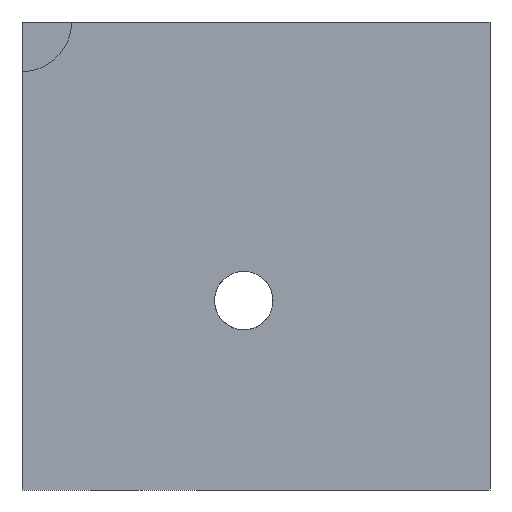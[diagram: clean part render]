
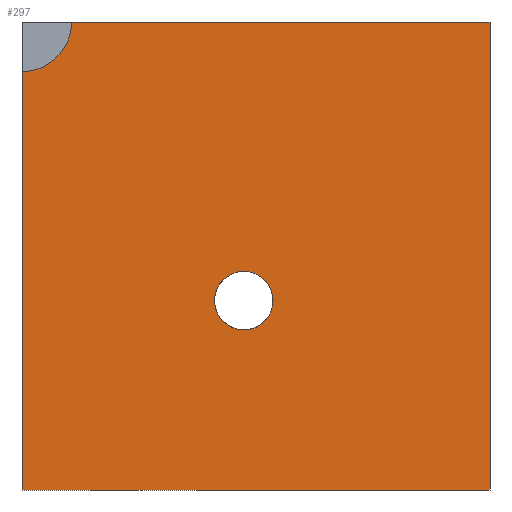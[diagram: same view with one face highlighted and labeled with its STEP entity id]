
A CAD part, front view. The second image highlights one B-rep face of the part: STEP entity #297.
In plain terms, the highlighted planar face has unit normal (0, -1, 0).
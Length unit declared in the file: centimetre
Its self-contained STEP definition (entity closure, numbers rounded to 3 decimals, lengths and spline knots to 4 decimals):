
#13 = CARTESIAN_POINT ( 'NONE',  ( 1000., 0., 1000. ) ) ;
#34 = VERTEX_POINT ( 'NONE', #154 ) ;
#36 = DIRECTION ( 'NONE',  ( 0., 0., -1. ) ) ;
#42 = ORIENTED_EDGE ( 'NONE', *, *, #749, .F. ) ;
#63 = CARTESIAN_POINT ( 'NONE',  ( 473.9316, 0., 342.1343 ) ) ;
#64 = EDGE_CURVE ( 'NONE', #602, #262, #188, .T. ) ;
#70 = EDGE_CURVE ( 'NONE', #262, #602, #369, .T. ) ;
#81 = AXIS2_PLACEMENT_3D ( 'NONE', #845, #1101, #329 ) ;
#101 = CARTESIAN_POINT ( 'NONE',  ( 0., 0., 893.9212 ) ) ;
#132 = CARTESIAN_POINT ( 'NONE',  ( 473.9316, 0., 467.0829 ) ) ;
#146 = DIRECTION ( 'NONE',  ( 0., -1., 0. ) ) ;
#154 = CARTESIAN_POINT ( 'NONE',  ( 1000., 0., 1000. ) ) ;
#159 = CARTESIAN_POINT ( 'NONE',  ( 473.9316, 0., 404.6086 ) ) ;
#168 = EDGE_LOOP ( 'NONE', ( #729, #345 ) ) ;
#169 = AXIS2_PLACEMENT_3D ( 'NONE', #159, #684, #1016 ) ;
#170 = VECTOR ( 'NONE', #976, 100. ) ;
#188 = CIRCLE ( 'NONE', #81, 62.4743 ) ;
#252 = CARTESIAN_POINT ( 'NONE',  ( 0., 0., 1000. ) ) ;
#262 = VERTEX_POINT ( 'NONE', #132 ) ;
#297 = ADVANCED_FACE ( 'NONE', ( #973, #307 ), #805, .F. ) ;
#307 = FACE_OUTER_BOUND ( 'NONE', #909, .T. ) ;
#329 = DIRECTION ( 'NONE',  ( 0., 0., -1. ) ) ;
#345 = ORIENTED_EDGE ( 'NONE', *, *, #70, .F. ) ;
#350 = CARTESIAN_POINT ( 'NONE',  ( 0., 0., 0. ) ) ;
#366 = EDGE_CURVE ( 'NONE', #960, #1076, #451, .T. ) ;
#369 = CIRCLE ( 'NONE', #169, 62.4743 ) ;
#427 = VECTOR ( 'NONE', #765, 100. ) ;
#451 = LINE ( 'NONE', #718, #637 ) ;
#484 = VERTEX_POINT ( 'NONE', #101 ) ;
#494 = EDGE_CURVE ( 'NONE', #34, #1076, #633, .T. ) ;
#499 = EDGE_CURVE ( 'NONE', #484, #960, #719, .T. ) ;
#502 = DIRECTION ( 'NONE',  ( 0., 0., -1. ) ) ;
#563 = DIRECTION ( 'NONE',  ( 0., 0., 1. ) ) ;
#602 = VERTEX_POINT ( 'NONE', #63 ) ;
#633 = LINE ( 'NONE', #13, #170 ) ;
#637 = VECTOR ( 'NONE', #780, 100. ) ;
#684 = DIRECTION ( 'NONE',  ( 0., -1., 0. ) ) ;
#686 = ORIENTED_EDGE ( 'NONE', *, *, #494, .F. ) ;
#689 = LINE ( 'NONE', #252, #427 ) ;
#701 = ORIENTED_EDGE ( 'NONE', *, *, #499, .T. ) ;
#718 = CARTESIAN_POINT ( 'NONE',  ( 0., 0., 0. ) ) ;
#719 = LINE ( 'NONE', #964, #804 ) ;
#729 = ORIENTED_EDGE ( 'NONE', *, *, #64, .F. ) ;
#749 = EDGE_CURVE ( 'NONE', #484, #873, #902, .T. ) ;
#765 = DIRECTION ( 'NONE',  ( 1., 0., 0. ) ) ;
#780 = DIRECTION ( 'NONE',  ( 1., 0., 0. ) ) ;
#804 = VECTOR ( 'NONE', #36, 100. ) ;
#805 = PLANE ( 'NONE',  #915 ) ;
#829 = CARTESIAN_POINT ( 'NONE',  ( 1000., 0., 0. ) ) ;
#845 = CARTESIAN_POINT ( 'NONE',  ( 473.9316, 0., 404.6086 ) ) ;
#871 = CARTESIAN_POINT ( 'NONE',  ( 106.0788, 0., 1000. ) ) ;
#873 = VERTEX_POINT ( 'NONE', #871 ) ;
#897 = ORIENTED_EDGE ( 'NONE', *, *, #930, .F. ) ;
#900 = ORIENTED_EDGE ( 'NONE', *, *, #366, .T. ) ;
#902 = CIRCLE ( 'NONE', #1115, 106.0788 ) ;
#909 = EDGE_LOOP ( 'NONE', ( #897, #42, #701, #900, #686 ) ) ;
#915 = AXIS2_PLACEMENT_3D ( 'NONE', #1069, #1081, #563 ) ;
#924 = CARTESIAN_POINT ( 'NONE',  ( 0., 0., 1000. ) ) ;
#930 = EDGE_CURVE ( 'NONE', #873, #34, #689, .T. ) ;
#960 = VERTEX_POINT ( 'NONE', #350 ) ;
#964 = CARTESIAN_POINT ( 'NONE',  ( 0., 0., 1000. ) ) ;
#973 = FACE_BOUND ( 'NONE', #168, .T. ) ;
#976 = DIRECTION ( 'NONE',  ( 0., 0., -1. ) ) ;
#1016 = DIRECTION ( 'NONE',  ( 0., 0., -1. ) ) ;
#1069 = CARTESIAN_POINT ( 'NONE',  ( 0., 0., 1000. ) ) ;
#1076 = VERTEX_POINT ( 'NONE', #829 ) ;
#1081 = DIRECTION ( 'NONE',  ( 0., 1., 0. ) ) ;
#1101 = DIRECTION ( 'NONE',  ( 0., -1., 0. ) ) ;
#1115 = AXIS2_PLACEMENT_3D ( 'NONE', #924, #146, #502 ) ;
